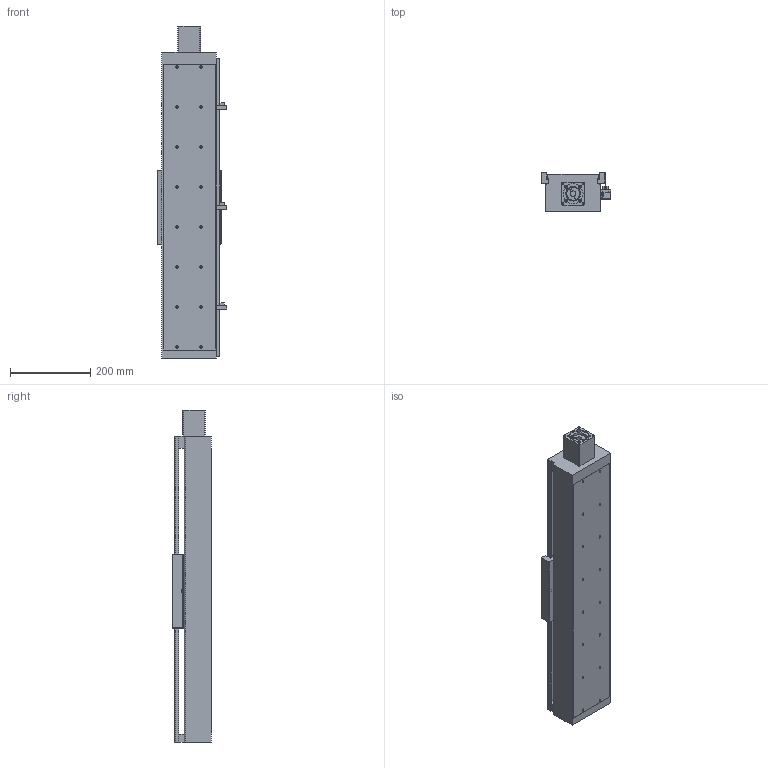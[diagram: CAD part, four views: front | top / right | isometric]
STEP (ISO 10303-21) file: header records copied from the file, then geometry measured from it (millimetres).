
FILE_DESCRIPTION((''),'2;1');
FILE_NAME('E:\libraries\UIA actuator library 2009\standard actuator\UIA136 ball screw 20\UIA136R15NDC-_ _ _-R20_ _-M60-P13-C10-S\UIA136R15NDC-500-R20_ _-M60-P13-C10-S.stp','2016-04-27T11:20:02',('h029'),(''),'Autodesk Inventor 11','Autodesk Inventor 11','');
FILE_SCHEMA(('AUTOMOTIVE_DESIGN { 1 0 10303 214 1 1 1 1 }'));
Length unit declared in the file: millimetre
Products named in the file (10): UIA136R15NDC-500; UIA136R15NDC-body; motor mount F60; SOH-32C; SOH-32C-3; SOH-32C-1; SOH-32C-2; Carriage; Sensor Switch; sensor rail
Assembly tree (9 placements, depth 3):
  UIA136R15NDC-500
    UIA136R15NDC-body
    motor mount F60
    SOH-32C
      SOH-32C-3
      SOH-32C-1
      SOH-32C-2
    Carriage
    Sensor Switch
    sensor rail
Bounding box: 174.5 x 98 x 830 mm (x, y, z)
Volume: 3386465.7 mm3; surface area: 895690.6 mm2
Topology: 8 solids, 8 shells, 491 faces, 1293 edges, 849 vertices
Faces by surface type: plane 311, bspline 138, cylinder 38, cone 4
Full cylindrical faces by diameter (mm): 2.459 x2, 3.242 x2, 4.5 x2, 5.5 x3, 7.5 x2, 10 x2, 12 x1, 14 x1, 32 x3, 37 x1, 41.9 x1, 42.1 x1, 43.5 x1
Entity records: 16115 total; most frequent: CARTESIAN_POINT 4754, ORIENTED_EDGE 2194, DIRECTION 2130, EDGE_CURVE 1097, VECTOR 790, LINE 790, VERTEX_POINT 784, EDGE_LOOP 737
